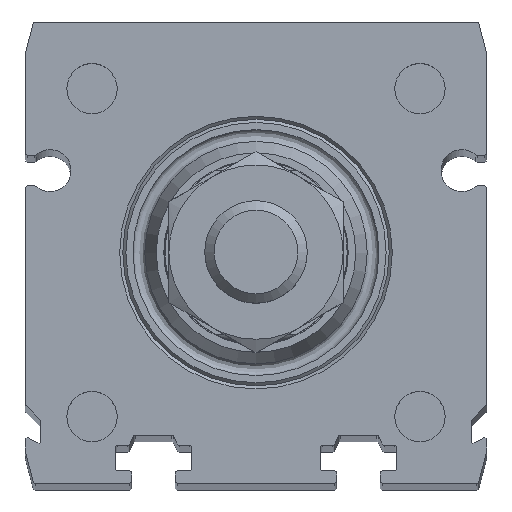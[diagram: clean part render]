
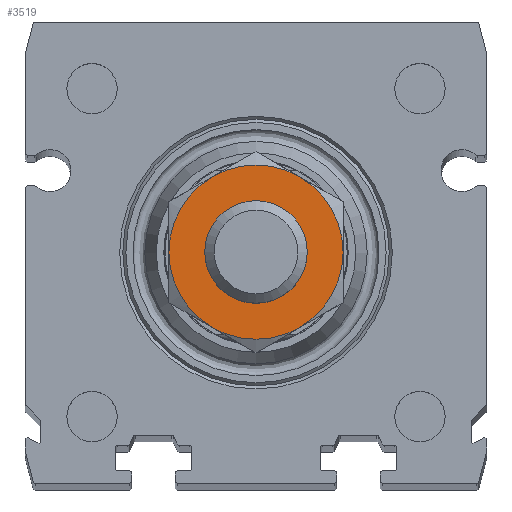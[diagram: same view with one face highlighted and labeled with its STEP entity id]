
A CAD part, top view. The second image highlights one B-rep face of the part: STEP entity #3519.
In plain terms, the highlighted planar face has unit normal (0, 0, 1) as drawn and (1, 0, 0) by its records, which use the part's own axes.
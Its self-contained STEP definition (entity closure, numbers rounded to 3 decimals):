
#1587=ORIENTED_EDGE('',*,*,#2112,.F.);
#1588=ORIENTED_EDGE('',*,*,#2092,.T.);
#1589=ORIENTED_EDGE('',*,*,#2093,.T.);
#1590=ORIENTED_EDGE('',*,*,#2096,.T.);
#1591=ORIENTED_EDGE('',*,*,#2102,.T.);
#1592=ORIENTED_EDGE('',*,*,#2111,.T.);
#1593=ORIENTED_EDGE('',*,*,#2101,.T.);
#2092=EDGE_CURVE('',#2443,#2445,#2666,.T.);
#2093=EDGE_CURVE('',#2445,#2446,#2667,.T.);
#2096=EDGE_CURVE('',#2446,#2448,#2668,.T.);
#2101=EDGE_CURVE('',#2450,#2443,#2669,.T.);
#2102=EDGE_CURVE('',#2448,#2452,#2670,.T.);
#2111=EDGE_CURVE('',#2452,#2450,#2673,.T.);
#2112=EDGE_CURVE('',#2457,#2457,#2674,.T.);
#2443=VERTEX_POINT('',#6136);
#2445=VERTEX_POINT('',#6142);
#2446=VERTEX_POINT('',#6146);
#2448=VERTEX_POINT('',#6158);
#2450=VERTEX_POINT('',#6173);
#2452=VERTEX_POINT('',#6182);
#2457=VERTEX_POINT('',#6219);
#2666=CIRCLE('',#3971,8.5);
#2667=CIRCLE('',#3973,8.5);
#2668=CIRCLE('',#3975,8.5);
#2669=CIRCLE('',#3977,8.5);
#2670=CIRCLE('',#3979,8.5);
#2673=CIRCLE('',#3985,8.5);
#2674=CIRCLE('',#3987,5.);
#2937=EDGE_LOOP('',(#1587));
#2938=EDGE_LOOP('',(#1588,#1589,#1590,#1591,#1592,#1593));
#3211=FACE_BOUND('',#2937,.T.);
#3212=FACE_BOUND('',#2938,.T.);
#3310=PLANE('',#3986);
#3519=ADVANCED_FACE('',(#3211,#3212),#3310,.F.);
#3971=AXIS2_PLACEMENT_3D('',#6143,#5044,#5045);
#3973=AXIS2_PLACEMENT_3D('',#6145,#5048,#5049);
#3975=AXIS2_PLACEMENT_3D('',#6157,#5052,#5053);
#3977=AXIS2_PLACEMENT_3D('',#6179,#5056,#5057);
#3979=AXIS2_PLACEMENT_3D('',#6181,#5060,#5061);
#3985=AXIS2_PLACEMENT_3D('',#6216,#5072,#5073);
#3986=AXIS2_PLACEMENT_3D('',#6217,#5074,#5075);
#3987=AXIS2_PLACEMENT_3D('',#6218,#5076,#5077);
#5044=DIRECTION('',(1.,0.,0.));
#5045=DIRECTION('',(0.,0.,-1.));
#5048=DIRECTION('',(1.,0.,0.));
#5049=DIRECTION('',(0.,0.,-1.));
#5052=DIRECTION('',(1.,0.,0.));
#5053=DIRECTION('',(0.,0.,-1.));
#5056=DIRECTION('',(1.,0.,0.));
#5057=DIRECTION('',(0.,0.,-1.));
#5060=DIRECTION('',(1.,0.,0.));
#5061=DIRECTION('',(0.,0.,-1.));
#5072=DIRECTION('',(1.,0.,0.));
#5073=DIRECTION('',(0.,0.,-1.));
#5074=DIRECTION('',(-1.,0.,0.));
#5075=DIRECTION('',(0.,0.,1.));
#5076=DIRECTION('',(1.,0.,0.));
#5077=DIRECTION('',(0.,0.,-1.));
#6136=CARTESIAN_POINT('',(2.5,0.,-8.5));
#6142=CARTESIAN_POINT('',(2.5,7.361,-4.25));
#6143=CARTESIAN_POINT('',(2.5,0.,0.));
#6145=CARTESIAN_POINT('',(2.5,0.,0.));
#6146=CARTESIAN_POINT('',(2.5,7.361,4.25));
#6157=CARTESIAN_POINT('',(2.5,0.,0.));
#6158=CARTESIAN_POINT('',(2.5,0.,8.5));
#6173=CARTESIAN_POINT('',(2.5,-7.361,-4.25));
#6179=CARTESIAN_POINT('',(2.5,0.,0.));
#6181=CARTESIAN_POINT('',(2.5,0.,0.));
#6182=CARTESIAN_POINT('',(2.5,-7.361,4.25));
#6216=CARTESIAN_POINT('',(2.5,0.,0.));
#6217=CARTESIAN_POINT('',(2.5,8.5,0.));
#6218=CARTESIAN_POINT('',(2.5,0.,0.));
#6219=CARTESIAN_POINT('',(2.5,0.,-5.));
